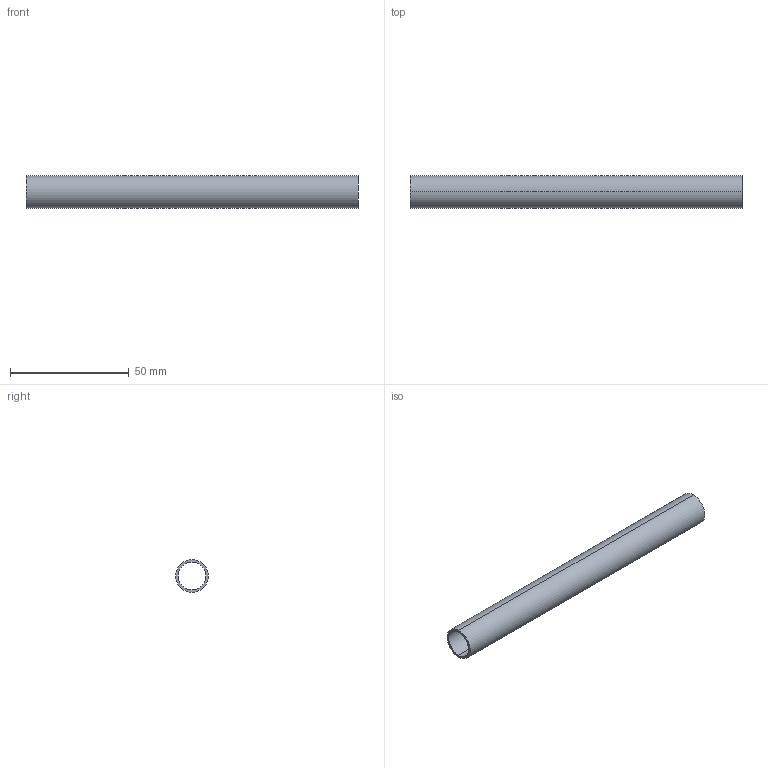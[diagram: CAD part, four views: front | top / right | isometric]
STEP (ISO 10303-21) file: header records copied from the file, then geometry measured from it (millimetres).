
FILE_DESCRIPTION (( 'STEP AP214' ), '1' );
FILE_NAME ('995-400 060 Test-rod_14_np_E2.STEP', '2016-09-12T06:56:32', ( '' ), ( '' ), 'SwSTEP 2.0', 'SolidWorks 2014', '' );
FILE_SCHEMA (( 'AUTOMOTIVE_DESIGN' ));
Length unit declared in the file: millimetre
Products named in the file (1): 995-400 060 Test-rod_14_np_E2
Bounding box: 140 x 13.8 x 13.8 mm (x, y, z)
Volume: 5629.7 mm3; surface area: 11339.9 mm2
Topology: 1 solids, 1 shells, 6 faces, 12 edges, 8 vertices
Faces by surface type: cylinder 4, plane 2
Entity records: 202 total; most frequent: DIRECTION 34, CARTESIAN_POINT 27, ORIENTED_EDGE 24, AXIS2_PLACEMENT_3D 15, EDGE_CURVE 12, EDGE_LOOP 8, VERTEX_POINT 8, CIRCLE 8
